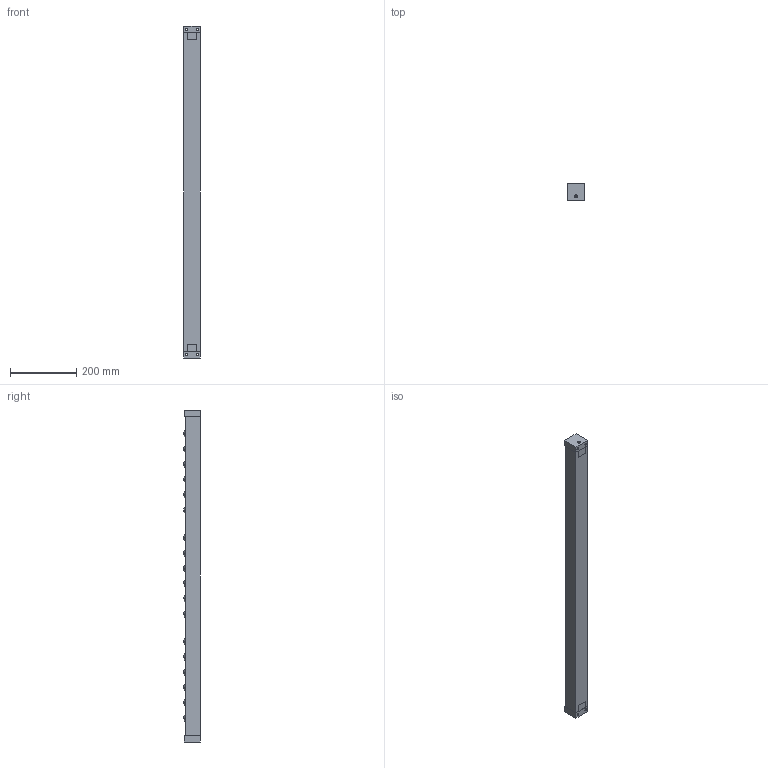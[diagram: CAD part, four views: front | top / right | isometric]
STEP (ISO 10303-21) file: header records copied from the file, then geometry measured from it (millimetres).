
FILE_DESCRIPTION (( 'STEP AP203' ), '1' );
FILE_NAME ('PVDL50-1000-18.STEP', '2016-03-07T09:30:13', ( '' ), ( '' ), 'SwSTEP 2.0', 'SolidWorks 2013', '' );
FILE_SCHEMA (( 'CONFIG_CONTROL_DESIGN' ));
Length unit declared in the file: millimetre
Products named in the file (1): PVDL50-1000-18
Bounding box: 50 x 51 x 1000 mm (x, y, z)
Volume: 1673437.4 mm3; surface area: 413643.8 mm2
Topology: 6 solids, 6 shells, 264 faces, 562 edges, 376 vertices
Faces by surface type: cylinder 114, plane 102, sphere 36, cone 12
Entity records: 7361 total; most frequent: DIRECTION 1416, CARTESIAN_POINT 1199, ORIENTED_EDGE 1116, AXIS2_PLACEMENT_3D 593, EDGE_CURVE 558, VERTEX_POINT 376, EDGE_LOOP 348, CIRCLE 328
